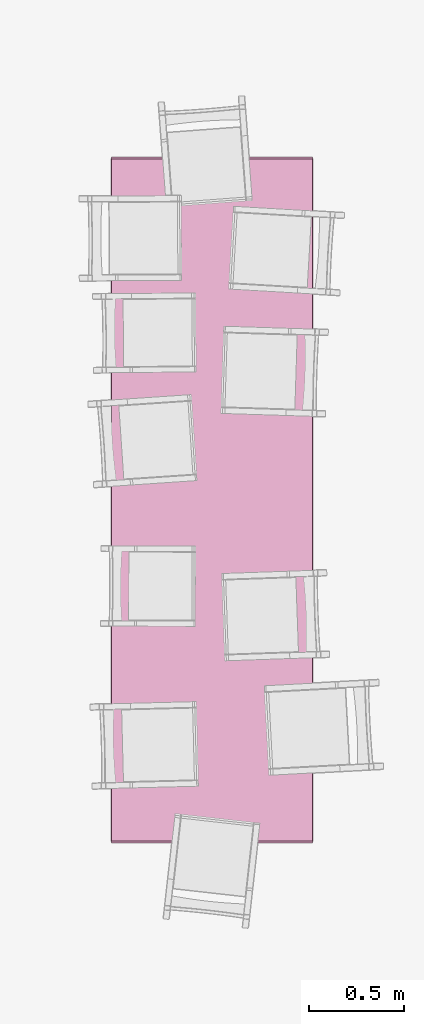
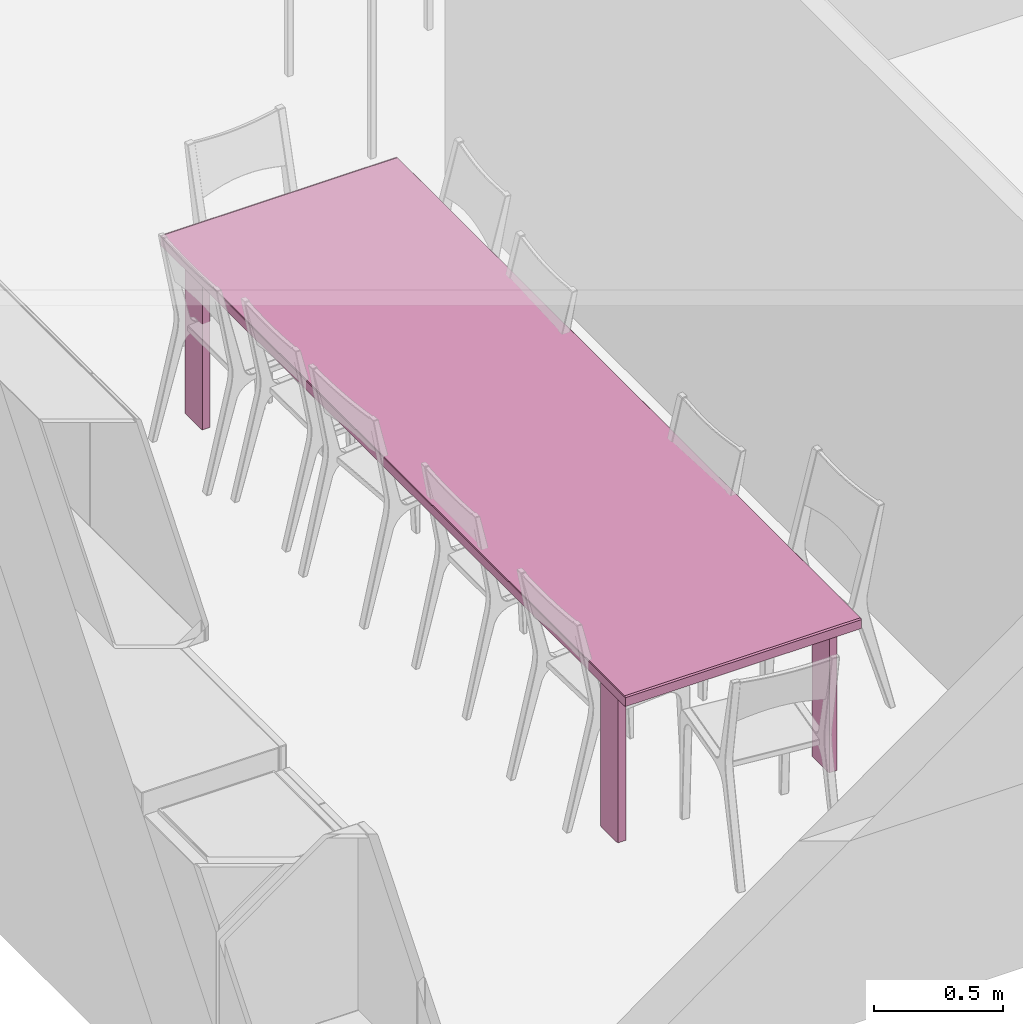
# One storey, part 18 of 26: 1 furniture element.
"""IFC4 building model written with IfcOpenShell, lengths in metres."""

from ifc_helpers import new_model, si_unit, direction, frame, origin_with_axes, place, context, project, spatial, polygons, type_object, element, save


model = new_model("IFC4")

# Units and contexts
model_context = context("Model", 3, precision=1e-05, world=origin_with_axes(), true_north=direction((0.996, -0.093, 0.0)))
ifc_project = project(units=[si_unit("LENGTHUNIT", "METRE"), si_unit("AREAUNIT", "SQUARE_METRE")], contexts=[model_context])

# Site, building, storey, space
site_placement = place(None, origin_with_axes())
site = spatial("IfcSite", under=ifc_project, at=site_placement, Name="Site", CompositionType="ELEMENT")
building_placement = place(site_placement, origin_with_axes())
building = spatial("IfcBuilding", under=site, at=building_placement, Name="Building", CompositionType="ELEMENT")
storey_placement = place(building_placement, frame((0.0, 0.0, 0.0500001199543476), z_axis=(0.0, 0.0, 1.0), x_axis=(1.0, 0.0, 0.0)))
storey = spatial("IfcBuildingStorey", under=building, at=storey_placement, Name="Story 0", CompositionType="ELEMENT", Elevation=0.0500000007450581)
space_placement = place(storey_placement, frame((9.93548383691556, 0.861985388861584, 0.0), z_axis=(0.0, 0.0, 1.0), x_axis=(1.0, 0.0, 0.0)))
space = spatial("IfcSpace", under=storey, at=space_placement, Name="004", CompositionType="ELEMENT")

# Furniture
furniture_type = type_object("IfcFurnitureType", Name="20944aee-117d-4066-b57e-82a6d35c948c", AssemblyPlace="NOTDEFINED", PredefinedType="USERDEFINED")
furniture_placement = place(space_placement, frame((13.2296277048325, -2.43559915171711, 0.391521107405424), z_axis=(0.0, 0.0, 0.999999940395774), x_axis=(-0.999999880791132, 0.0, 0.0)))
element("IfcFurniture", 1, at=furniture_placement, inside=space, type_object=furniture_type, Name="Table", ObjectType="Table", PredefinedType="USERDEFINED", context=model_context, shape_type="Tessellation", body=[
    polygons([(0.5284, 1.8052, 0.3461), (-0.5284, 1.8052, 0.3461), (0.5284, 1.8052, 0.3881), (-0.5284, 1.8052, 0.3881), (0.5284, 1.8052, 0.3881), (-0.5284, 1.8052, 0.3461), (0.4529, -1.6715, 0.3549), (0.4529, -1.5531, 0.3549), (0.4529, -1.6715, -0.3881), (0.4529, -1.5531, -0.3881), (0.4529, -1.6715, -0.3881), (0.4529, -1.5531, 0.3549), (0.4904, -1.6805, 0.3549), (0.4556, -1.6805, 0.3549), (0.4904, -1.6805, -0.3881), (0.4556, -1.6805, -0.3881), (0.4904, -1.6805, -0.3881), (0.4556, -1.6805, 0.3549), (0.4931, -1.5531, 0.3549), (0.4931, -1.6715, 0.3549), (0.4931, -1.5531, -0.3881), (0.4931, -1.6715, -0.3881), (0.4931, -1.5531, -0.3881), (0.4931, -1.6715, 0.3549), (0.4556, -1.5441, 0.3549), (0.4904, -1.5441, 0.3549), (0.4556, -1.5441, -0.3881), (0.4904, -1.5441, -0.3881), (0.4556, -1.5441, -0.3881), (0.4904, -1.5441, 0.3549), (0.4529, 1.6715, 0.3549), (0.4529, 1.6715, -0.3881), (0.4529, 1.5531, 0.3549), (0.4529, 1.5531, -0.3881), (0.4529, 1.5531, 0.3549), (0.4529, 1.6715, -0.3881), (0.4904, 1.6805, 0.3549), (0.4904, 1.6805, -0.3881), (0.4556, 1.6805, 0.3549), (0.4556, 1.6805, -0.3881), (0.4556, 1.6805, 0.3549), (0.4904, 1.6805, -0.3881), (0.4931, 1.5531, 0.3549), (0.4931, 1.5531, -0.3881), (0.4931, 1.6715, 0.3549), (0.4931, 1.6715, -0.3881), (0.4931, 1.6715, 0.3549), (0.4931, 1.5531, -0.3881), (0.4556, 1.544, 0.3549), (0.4556, 1.544, -0.3881), (0.4904, 1.544, 0.3549), (0.4904, 1.544, -0.3881), (0.4904, 1.544, 0.3549), (0.4556, 1.544, -0.3881), (0.531, 1.7962, 0.3461), (0.531, 1.7962, 0.3881), (0.531, -1.7962, 0.3461), (0.531, -1.7962, 0.3881), (0.531, -1.7962, 0.3461), (0.531, 1.7962, 0.3881), (-0.531, 1.7962, 0.3881), (-0.531, 1.7962, 0.3461), (-0.531, -1.7962, 0.3881), (-0.531, -1.7962, 0.3461), (-0.531, -1.7962, 0.3881), (-0.531, 1.7962, 0.3461), (-0.4529, -1.6715, 0.3549), (-0.4529, -1.6715, -0.3881), (-0.4529, -1.5531, 0.3549), (-0.4529, -1.5531, -0.3881), (-0.4529, -1.5531, 0.3549), (-0.4529, -1.6715, -0.3881), (-0.4904, -1.6805, 0.3549), (-0.4904, -1.6805, -0.3881), (-0.4556, -1.6805, 0.3549), (-0.4556, -1.6805, -0.3881), (-0.4556, -1.6805, 0.3549), (-0.4904, -1.6805, -0.3881), (-0.4931, -1.5531, 0.3549), (-0.4931, -1.5531, -0.3881), (-0.4931, -1.6715, 0.3549), (-0.4931, -1.6715, -0.3881), (-0.4931, -1.6715, 0.3549), (-0.4931, -1.5531, -0.3881), (-0.4556, -1.5441, 0.3549), (-0.4556, -1.5441, -0.3881), (-0.4904, -1.5441, 0.3549), (-0.4904, -1.5441, -0.3881), (-0.4904, -1.5441, 0.3549), (-0.4556, -1.5441, -0.3881), (-0.4529, 1.6715, 0.3549), (-0.4529, 1.5531, 0.3549), (-0.4529, 1.6715, -0.3881), (-0.4529, 1.5531, -0.3881), (-0.4529, 1.6715, -0.3881), (-0.4529, 1.5531, 0.3549), (-0.4904, 1.6805, 0.3549), (-0.4556, 1.6805, 0.3549), (-0.4904, 1.6805, -0.3881), (-0.4556, 1.6805, -0.3881), (-0.4904, 1.6805, -0.3881), (-0.4556, 1.6805, 0.3549), (-0.4931, 1.5531, 0.3549), (-0.4931, 1.6715, 0.3549), (-0.4931, 1.5531, -0.3881), (-0.4931, 1.6715, -0.3881), (-0.4931, 1.5531, -0.3881), (-0.4931, 1.6715, 0.3549), (-0.4556, 1.544, 0.3549), (-0.4904, 1.544, 0.3549), (-0.4556, 1.544, -0.3881), (-0.4904, 1.544, -0.3881), (-0.4556, 1.544, -0.3881), (-0.4904, 1.544, 0.3549), (-0.5284, 1.7962, 0.3915), (-0.5284, -1.7962, 0.3915), (0.5284, 1.7962, 0.3915), (0.5284, -1.7962, 0.3915), (0.5284, 1.7962, 0.3915), (-0.5284, -1.7962, 0.3915), (0.5284, -1.8052, 0.3461), (0.5284, -1.8052, 0.3881), (-0.5284, -1.8052, 0.3461), (-0.5284, -1.8052, 0.3881), (-0.5284, -1.8052, 0.3461), (0.5284, -1.8052, 0.3881), (0.5284, -1.7962, 0.3427), (-0.5284, -1.7962, 0.3427), (0.5284, 1.7962, 0.3427), (-0.5284, 1.7962, 0.3427), (0.5284, 1.7962, 0.3427), (-0.5284, -1.7962, 0.3427), (0.4904, -1.6715, 0.3584), (0.4904, -1.5531, 0.3584), (0.4556, -1.6715, 0.3584), (0.4556, -1.5531, 0.3584), (0.4556, -1.6715, 0.3584), (0.4904, -1.5531, 0.3584), (0.4904, -1.5531, -0.3915), (0.4904, -1.6715, -0.3915), (0.4556, -1.5531, -0.3915), (0.4556, -1.6715, -0.3915), (0.4556, -1.5531, -0.3915), (0.4904, -1.6715, -0.3915), (0.4904, 1.6715, -0.3915), (0.4904, 1.5531, -0.3915), (0.4556, 1.6715, -0.3915), (0.4556, 1.5531, -0.3915), (0.4556, 1.6715, -0.3915), (0.4904, 1.5531, -0.3915), (0.4904, 1.5531, 0.3584), (0.4904, 1.6715, 0.3584), (0.4556, 1.5531, 0.3584), (0.4556, 1.6715, 0.3584), (0.4556, 1.5531, 0.3584), (0.4904, 1.6715, 0.3584), (-0.4904, -1.6715, -0.3915), (-0.4904, -1.5531, -0.3915), (-0.4556, -1.6715, -0.3915), (-0.4556, -1.5531, -0.3915), (-0.4556, -1.6715, -0.3915), (-0.4904, -1.5531, -0.3915), (-0.4904, -1.5531, 0.3584), (-0.4904, -1.6715, 0.3584), (-0.4556, -1.5531, 0.3584), (-0.4556, -1.6715, 0.3584), (-0.4556, -1.5531, 0.3584), (-0.4904, -1.6715, 0.3584), (-0.4904, 1.6715, 0.3584), (-0.4904, 1.5531, 0.3584), (-0.4556, 1.6715, 0.3584), (-0.4556, 1.5531, 0.3584), (-0.4556, 1.6715, 0.3584), (-0.4904, 1.5531, 0.3584), (-0.4904, 1.5531, -0.3915), (-0.4904, 1.6715, -0.3915), (-0.4556, 1.5531, -0.3915), (-0.4556, 1.6715, -0.3915), (-0.4556, 1.5531, -0.3915), (-0.4904, 1.6715, -0.3915), (-0.5284, 1.7962, 0.3915), (-0.5284, 1.8052, 0.3881), (-0.531, 1.7962, 0.3881), (0.4556, -1.5531, -0.3915), (0.4529, -1.5531, -0.3881), (0.4556, -1.5441, -0.3881), (0.4556, -1.6715, -0.3915), (0.4556, -1.6805, -0.3881), (0.4529, -1.6715, -0.3881), (0.4904, -1.6715, -0.3915), (0.4931, -1.6715, -0.3881), (0.4904, -1.6805, -0.3881), (0.4904, -1.5531, -0.3915), (0.4904, -1.5441, -0.3881), (0.4931, -1.5531, -0.3881), (0.4556, -1.5531, 0.3584), (0.4556, -1.5441, 0.3549), (0.4529, -1.5531, 0.3549), (0.4556, 1.544, -0.3881), (0.4529, 1.5531, -0.3881), (0.4556, 1.5531, -0.3915), (0.4556, 1.6715, 0.3584), (0.4556, 1.6805, 0.3549), (0.4529, 1.6715, 0.3549), (0.4904, 1.6715, 0.3584), (0.4931, 1.6715, 0.3549), (0.4904, 1.6805, 0.3549), (0.4904, 1.5531, 0.3584), (0.4904, 1.544, 0.3549), (0.4931, 1.5531, 0.3549), (0.5284, -1.8052, 0.3881), (0.531, -1.7962, 0.3881), (0.5284, -1.7962, 0.3915), (0.5284, 1.7962, 0.3915), (0.531, 1.7962, 0.3881), (0.5284, 1.8052, 0.3881), (-0.5284, -1.8052, 0.3461), (-0.531, -1.7962, 0.3461), (-0.5284, -1.7962, 0.3427), (-0.5284, 1.7962, 0.3427), (-0.531, 1.7962, 0.3461), (-0.5284, 1.8052, 0.3461), (-0.4556, -1.5441, -0.3881), (-0.4529, -1.5531, -0.3881), (-0.4556, -1.5531, -0.3915), (-0.4556, -1.6715, 0.3584), (-0.4556, -1.6805, 0.3549), (-0.4529, -1.6715, 0.3549), (-0.4904, -1.6715, 0.3584), (-0.4931, -1.6715, 0.3549), (-0.4904, -1.6805, 0.3549), (-0.4904, -1.5531, 0.3584), (-0.4904, -1.5441, 0.3549), (-0.4931, -1.5531, 0.3549), (-0.4556, 1.5531, -0.3915), (-0.4529, 1.5531, -0.3881), (-0.4556, 1.544, -0.3881), (-0.4556, 1.6715, -0.3915), (-0.4556, 1.6805, -0.3881), (-0.4529, 1.6715, -0.3881), (-0.4904, 1.6715, -0.3915), (-0.4931, 1.6715, -0.3881), (-0.4904, 1.6805, -0.3881), (-0.4904, 1.5531, -0.3915), (-0.4904, 1.544, -0.3881), (-0.4931, 1.5531, -0.3881), (-0.4556, 1.5531, 0.3584), (-0.4556, 1.544, 0.3549), (-0.4529, 1.5531, 0.3549), (-0.5284, -1.8052, 0.3881), (-0.5284, -1.7962, 0.3915), (-0.531, -1.7962, 0.3881), (0.5284, -1.8052, 0.3461), (0.5284, -1.7962, 0.3427), (0.531, -1.7962, 0.3461), (0.531, 1.7962, 0.3461), (0.5284, 1.7962, 0.3427), (0.5284, 1.8052, 0.3461), (0.4904, -1.5441, 0.3549), (0.4904, -1.5531, 0.3584), (0.4931, -1.5531, 0.3549), (0.4931, -1.6715, 0.3549), (0.4904, -1.6715, 0.3584), (0.4904, -1.6805, 0.3549), (0.4556, -1.6805, 0.3549), (0.4556, -1.6715, 0.3584), (0.4529, -1.6715, 0.3549), (0.4904, 1.544, -0.3881), (0.4904, 1.5531, -0.3915), (0.4931, 1.5531, -0.3881), (0.4931, 1.6715, -0.3881), (0.4904, 1.6715, -0.3915), (0.4904, 1.6805, -0.3881), (0.4556, 1.6805, -0.3881), (0.4556, 1.6715, -0.3915), (0.4529, 1.6715, -0.3881), (0.4556, 1.544, 0.3549), (0.4556, 1.5531, 0.3584), (0.4529, 1.5531, 0.3549), (-0.4904, -1.5441, -0.3881), (-0.4904, -1.5531, -0.3915), (-0.4931, -1.5531, -0.3881), (-0.4931, -1.6715, -0.3881), (-0.4904, -1.6715, -0.3915), (-0.4904, -1.6805, -0.3881), (-0.4556, -1.6805, -0.3881), (-0.4556, -1.6715, -0.3915), (-0.4529, -1.6715, -0.3881), (-0.4556, -1.5441, 0.3549), (-0.4556, -1.5531, 0.3584), (-0.4529, -1.5531, 0.3549), (-0.4904, 1.544, 0.3549), (-0.4904, 1.5531, 0.3584), (-0.4931, 1.5531, 0.3549), (-0.4931, 1.6715, 0.3549), (-0.4904, 1.6715, 0.3584), (-0.4904, 1.6805, 0.3549), (-0.4556, 1.6805, 0.3549), (-0.4556, 1.6715, 0.3584), (-0.4529, 1.6715, 0.3549), (-0.5284, 1.8052, 0.3881), (-0.5284, 1.8052, 0.3461), (-0.531, 1.7962, 0.3881), (-0.531, 1.7962, 0.3461), (-0.531, 1.7962, 0.3881), (-0.5284, 1.8052, 0.3461), (-0.5284, 1.8052, 0.3461), (0.5284, 1.8052, 0.3461), (-0.5284, 1.7962, 0.3427), (0.5284, 1.7962, 0.3427), (-0.5284, 1.7962, 0.3427), (0.5284, 1.8052, 0.3461), (0.5284, 1.8052, 0.3461), (0.5284, 1.8052, 0.3881), (0.531, 1.7962, 0.3461), (0.531, 1.7962, 0.3881), (0.531, 1.7962, 0.3461), (0.5284, 1.8052, 0.3881), (0.5284, 1.8052, 0.3881), (-0.5284, 1.8052, 0.3881), (0.5284, 1.7962, 0.3915), (-0.5284, 1.7962, 0.3915), (0.5284, 1.7962, 0.3915), (-0.5284, 1.8052, 0.3881), (0.4529, -1.5531, -0.3881), (0.4529, -1.5531, 0.3549), (0.4556, -1.5441, -0.3881), (0.4556, -1.5441, 0.3549), (0.4556, -1.5441, -0.3881), (0.4529, -1.5531, 0.3549), (0.4529, -1.5531, 0.3549), (0.4529, -1.6715, 0.3549), (0.4556, -1.5531, 0.3584), (0.4556, -1.6715, 0.3584), (0.4556, -1.5531, 0.3584), (0.4529, -1.6715, 0.3549), (0.4529, -1.6715, 0.3549), (0.4529, -1.6715, -0.3881), (0.4556, -1.6805, 0.3549), (0.4556, -1.6805, -0.3881), (0.4556, -1.6805, 0.3549), (0.4529, -1.6715, -0.3881), (0.4529, -1.6715, -0.3881), (0.4529, -1.5531, -0.3881), (0.4556, -1.6715, -0.3915), (0.4556, -1.5531, -0.3915), (0.4556, -1.6715, -0.3915), (0.4529, -1.5531, -0.3881), (0.4556, -1.6805, 0.3549), (0.4904, -1.6805, 0.3549), (0.4556, -1.6715, 0.3584), (0.4904, -1.6715, 0.3584), (0.4556, -1.6715, 0.3584), (0.4904, -1.6805, 0.3549), (0.4904, -1.6805, 0.3549), (0.4904, -1.6805, -0.3881), (0.4931, -1.6715, 0.3549), (0.4931, -1.6715, -0.3881), (0.4931, -1.6715, 0.3549), (0.4904, -1.6805, -0.3881), (0.4904, -1.6805, -0.3881), (0.4556, -1.6805, -0.3881), (0.4904, -1.6715, -0.3915), (0.4556, -1.6715, -0.3915), (0.4904, -1.6715, -0.3915), (0.4556, -1.6805, -0.3881), (0.4931, -1.6715, 0.3549), (0.4931, -1.5531, 0.3549), (0.4904, -1.6715, 0.3584), (0.4904, -1.5531, 0.3584), (0.4904, -1.6715, 0.3584), (0.4931, -1.5531, 0.3549), (0.4931, -1.5531, 0.3549), (0.4931, -1.5531, -0.3881), (0.4904, -1.5441, 0.3549), (0.4904, -1.5441, -0.3881), (0.4904, -1.5441, 0.3549), (0.4931, -1.5531, -0.3881), (0.4931, -1.5531, -0.3881), (0.4931, -1.6715, -0.3881), (0.4904, -1.5531, -0.3915), (0.4904, -1.6715, -0.3915), (0.4904, -1.5531, -0.3915), (0.4931, -1.6715, -0.3881), (0.4904, -1.5441, 0.3549), (0.4556, -1.5441, 0.3549), (0.4904, -1.5531, 0.3584), (0.4556, -1.5531, 0.3584), (0.4904, -1.5531, 0.3584), (0.4556, -1.5441, 0.3549), (0.4556, -1.5441, -0.3881), (0.4904, -1.5441, -0.3881), (0.4556, -1.5531, -0.3915), (0.4904, -1.5531, -0.3915), (0.4556, -1.5531, -0.3915), (0.4904, -1.5441, -0.3881), (0.4529, 1.5531, -0.3881), (0.4529, 1.6715, -0.3881), (0.4556, 1.5531, -0.3915), (0.4556, 1.6715, -0.3915), (0.4556, 1.5531, -0.3915), (0.4529, 1.6715, -0.3881), (0.4529, 1.6715, -0.3881), (0.4529, 1.6715, 0.3549), (0.4556, 1.6805, -0.3881), (0.4556, 1.6805, 0.3549), (0.4556, 1.6805, -0.3881), (0.4529, 1.6715, 0.3549), (0.4529, 1.6715, 0.3549), (0.4529, 1.5531, 0.3549), (0.4556, 1.6715, 0.3584), (0.4556, 1.5531, 0.3584), (0.4556, 1.6715, 0.3584), (0.4529, 1.5531, 0.3549), (0.4529, 1.5531, 0.3549), (0.4529, 1.5531, -0.3881), (0.4556, 1.544, 0.3549), (0.4556, 1.544, -0.3881), (0.4556, 1.544, 0.3549), (0.4529, 1.5531, -0.3881), (0.4556, 1.6805, -0.3881), (0.4904, 1.6805, -0.3881), (0.4556, 1.6715, -0.3915), (0.4904, 1.6715, -0.3915), (0.4556, 1.6715, -0.3915), (0.4904, 1.6805, -0.3881), (0.4904, 1.6805, -0.3881), (0.4904, 1.6805, 0.3549), (0.4931, 1.6715, -0.3881), (0.4931, 1.6715, 0.3549), (0.4931, 1.6715, -0.3881), (0.4904, 1.6805, 0.3549), (0.4904, 1.6805, 0.3549), (0.4556, 1.6805, 0.3549), (0.4904, 1.6715, 0.3584), (0.4556, 1.6715, 0.3584), (0.4904, 1.6715, 0.3584), (0.4556, 1.6805, 0.3549), (0.4931, 1.6715, -0.3881), (0.4931, 1.5531, -0.3881), (0.4904, 1.6715, -0.3915), (0.4904, 1.5531, -0.3915), (0.4904, 1.6715, -0.3915), (0.4931, 1.5531, -0.3881), (0.4931, 1.5531, -0.3881), (0.4931, 1.5531, 0.3549), (0.4904, 1.544, -0.3881), (0.4904, 1.544, 0.3549), (0.4904, 1.544, -0.3881), (0.4931, 1.5531, 0.3549), (0.4931, 1.5531, 0.3549), (0.4931, 1.6715, 0.3549), (0.4904, 1.5531, 0.3584), (0.4904, 1.6715, 0.3584), (0.4904, 1.5531, 0.3584), (0.4931, 1.6715, 0.3549), (0.4904, 1.544, -0.3881), (0.4556, 1.544, -0.3881), (0.4904, 1.5531, -0.3915), (0.4556, 1.5531, -0.3915), (0.4904, 1.5531, -0.3915), (0.4556, 1.544, -0.3881), (0.4556, 1.544, 0.3549), (0.4904, 1.544, 0.3549), (0.4556, 1.5531, 0.3584), (0.4904, 1.5531, 0.3584), (0.4556, 1.5531, 0.3584), (0.4904, 1.544, 0.3549), (0.531, -1.7962, 0.3881), (0.531, 1.7962, 0.3881), (0.5284, -1.7962, 0.3915), (0.5284, 1.7962, 0.3915), (0.5284, -1.7962, 0.3915), (0.531, 1.7962, 0.3881), (0.531, 1.7962, 0.3461), (0.531, -1.7962, 0.3461), (0.5284, 1.7962, 0.3427), (0.5284, -1.7962, 0.3427), (0.5284, 1.7962, 0.3427), (0.531, -1.7962, 0.3461), (0.531, -1.7962, 0.3461), (0.531, -1.7962, 0.3881), (0.5284, -1.8052, 0.3461), (0.5284, -1.8052, 0.3881), (0.5284, -1.8052, 0.3461), (0.531, -1.7962, 0.3881), (-0.531, -1.7962, 0.3461), (-0.531, 1.7962, 0.3461), (-0.5284, -1.7962, 0.3427), (-0.5284, 1.7962, 0.3427), (-0.5284, -1.7962, 0.3427), (-0.531, 1.7962, 0.3461), (-0.531, 1.7962, 0.3881), (-0.531, -1.7962, 0.3881), (-0.5284, 1.7962, 0.3915), (-0.5284, -1.7962, 0.3915), (-0.5284, 1.7962, 0.3915), (-0.531, -1.7962, 0.3881), (-0.531, -1.7962, 0.3881), (-0.531, -1.7962, 0.3461), (-0.5284, -1.8052, 0.3881), (-0.5284, -1.8052, 0.3461), (-0.5284, -1.8052, 0.3881), (-0.531, -1.7962, 0.3461), (-0.4529, -1.5531, -0.3881), (-0.4529, -1.6715, -0.3881), (-0.4556, -1.5531, -0.3915), (-0.4556, -1.6715, -0.3915), (-0.4556, -1.5531, -0.3915), (-0.4529, -1.6715, -0.3881), (-0.4529, -1.6715, -0.3881), (-0.4529, -1.6715, 0.3549), (-0.4556, -1.6805, -0.3881), (-0.4556, -1.6805, 0.3549), (-0.4556, -1.6805, -0.3881), (-0.4529, -1.6715, 0.3549), (-0.4529, -1.6715, 0.3549), (-0.4529, -1.5531, 0.3549), (-0.4556, -1.6715, 0.3584), (-0.4556, -1.5531, 0.3584), (-0.4556, -1.6715, 0.3584), (-0.4529, -1.5531, 0.3549), (-0.4529, -1.5531, 0.3549), (-0.4529, -1.5531, -0.3881), (-0.4556, -1.5441, 0.3549), (-0.4556, -1.5441, -0.3881), (-0.4556, -1.5441, 0.3549), (-0.4529, -1.5531, -0.3881), (-0.4556, -1.6805, -0.3881), (-0.4904, -1.6805, -0.3881), (-0.4556, -1.6715, -0.3915), (-0.4904, -1.6715, -0.3915), (-0.4556, -1.6715, -0.3915), (-0.4904, -1.6805, -0.3881), (-0.4904, -1.6805, -0.3881), (-0.4904, -1.6805, 0.3549), (-0.4931, -1.6715, -0.3881), (-0.4931, -1.6715, 0.3549), (-0.4931, -1.6715, -0.3881), (-0.4904, -1.6805, 0.3549), (-0.4904, -1.6805, 0.3549), (-0.4556, -1.6805, 0.3549), (-0.4904, -1.6715, 0.3584), (-0.4556, -1.6715, 0.3584), (-0.4904, -1.6715, 0.3584), (-0.4556, -1.6805, 0.3549), (-0.4931, -1.6715, -0.3881), (-0.4931, -1.5531, -0.3881), (-0.4904, -1.6715, -0.3915), (-0.4904, -1.5531, -0.3915), (-0.4904, -1.6715, -0.3915), (-0.4931, -1.5531, -0.3881), (-0.4931, -1.5531, -0.3881), (-0.4931, -1.5531, 0.3549), (-0.4904, -1.5441, -0.3881), (-0.4904, -1.5441, 0.3549), (-0.4904, -1.5441, -0.3881), (-0.4931, -1.5531, 0.3549), (-0.4931, -1.5531, 0.3549), (-0.4931, -1.6715, 0.3549), (-0.4904, -1.5531, 0.3584), (-0.4904, -1.6715, 0.3584), (-0.4904, -1.5531, 0.3584), (-0.4931, -1.6715, 0.3549), (-0.4904, -1.5441, -0.3881), (-0.4556, -1.5441, -0.3881), (-0.4904, -1.5531, -0.3915), (-0.4556, -1.5531, -0.3915), (-0.4904, -1.5531, -0.3915), (-0.4556, -1.5441, -0.3881), (-0.4556, -1.5441, 0.3549), (-0.4904, -1.5441, 0.3549), (-0.4556, -1.5531, 0.3584), (-0.4904, -1.5531, 0.3584), (-0.4556, -1.5531, 0.3584), (-0.4904, -1.5441, 0.3549), (-0.4529, 1.5531, -0.3881), (-0.4529, 1.5531, 0.3549), (-0.4556, 1.544, -0.3881), (-0.4556, 1.544, 0.3549), (-0.4556, 1.544, -0.3881), (-0.4529, 1.5531, 0.3549), (-0.4529, 1.5531, 0.3549), (-0.4529, 1.6715, 0.3549), (-0.4556, 1.5531, 0.3584), (-0.4556, 1.6715, 0.3584), (-0.4556, 1.5531, 0.3584), (-0.4529, 1.6715, 0.3549), (-0.4529, 1.6715, 0.3549), (-0.4529, 1.6715, -0.3881), (-0.4556, 1.6805, 0.3549), (-0.4556, 1.6805, -0.3881), (-0.4556, 1.6805, 0.3549), (-0.4529, 1.6715, -0.3881), (-0.4529, 1.6715, -0.3881), (-0.4529, 1.5531, -0.3881), (-0.4556, 1.6715, -0.3915), (-0.4556, 1.5531, -0.3915), (-0.4556, 1.6715, -0.3915), (-0.4529, 1.5531, -0.3881), (-0.4556, 1.6805, 0.3549), (-0.4904, 1.6805, 0.3549), (-0.4556, 1.6715, 0.3584), (-0.4904, 1.6715, 0.3584), (-0.4556, 1.6715, 0.3584), (-0.4904, 1.6805, 0.3549), (-0.4904, 1.6805, 0.3549), (-0.4904, 1.6805, -0.3881), (-0.4931, 1.6715, 0.3549), (-0.4931, 1.6715, -0.3881), (-0.4931, 1.6715, 0.3549), (-0.4904, 1.6805, -0.3881), (-0.4904, 1.6805, -0.3881), (-0.4556, 1.6805, -0.3881), (-0.4904, 1.6715, -0.3915), (-0.4556, 1.6715, -0.3915), (-0.4904, 1.6715, -0.3915), (-0.4556, 1.6805, -0.3881), (-0.4931, 1.6715, 0.3549), (-0.4931, 1.5531, 0.3549), (-0.4904, 1.6715, 0.3584), (-0.4904, 1.5531, 0.3584), (-0.4904, 1.6715, 0.3584), (-0.4931, 1.5531, 0.3549), (-0.4931, 1.5531, 0.3549), (-0.4931, 1.5531, -0.3881), (-0.4904, 1.544, 0.3549), (-0.4904, 1.544, -0.3881), (-0.4904, 1.544, 0.3549), (-0.4931, 1.5531, -0.3881), (-0.4931, 1.5531, -0.3881), (-0.4931, 1.6715, -0.3881), (-0.4904, 1.5531, -0.3915), (-0.4904, 1.6715, -0.3915), (-0.4904, 1.5531, -0.3915), (-0.4931, 1.6715, -0.3881), (-0.4904, 1.544, 0.3549), (-0.4556, 1.544, 0.3549), (-0.4904, 1.5531, 0.3584), (-0.4556, 1.5531, 0.3584), (-0.4904, 1.5531, 0.3584), (-0.4556, 1.544, 0.3549), (-0.4556, 1.544, -0.3881), (-0.4904, 1.544, -0.3881), (-0.4556, 1.5531, -0.3915), (-0.4904, 1.5531, -0.3915), (-0.4556, 1.5531, -0.3915), (-0.4904, 1.544, -0.3881), (0.5284, -1.7962, 0.3915), (-0.5284, -1.7962, 0.3915), (0.5284, -1.8052, 0.3881), (-0.5284, -1.8052, 0.3881), (0.5284, -1.8052, 0.3881), (-0.5284, -1.7962, 0.3915), (0.5284, -1.8052, 0.3461), (-0.5284, -1.8052, 0.3461), (0.5284, -1.7962, 0.3427), (-0.5284, -1.7962, 0.3427), (0.5284, -1.7962, 0.3427), (-0.5284, -1.8052, 0.3461)], [[[1, 2, 3]], [[4, 5, 6]], [[7, 8, 9]], [[10, 11, 12]], [[13, 14, 15]], [[16, 17, 18]], [[19, 20, 21]], [[22, 23, 24]], [[25, 26, 27]], [[28, 29, 30]], [[31, 32, 33]], [[34, 35, 36]], [[37, 38, 39]], [[40, 41, 42]], [[43, 44, 45]], [[46, 47, 48]], [[49, 50, 51]], [[52, 53, 54]], [[55, 56, 57]], [[58, 59, 60]], [[61, 62, 63]], [[64, 65, 66]], [[67, 68, 69]], [[70, 71, 72]], [[73, 74, 75]], [[76, 77, 78]], [[79, 80, 81]], [[82, 83, 84]], [[85, 86, 87]], [[88, 89, 90]], [[91, 92, 93]], [[94, 95, 96]], [[97, 98, 99]], [[100, 101, 102]], [[103, 104, 105]], [[106, 107, 108]], [[109, 110, 111]], [[112, 113, 114]], [[115, 116, 117]], [[118, 119, 120]], [[121, 122, 123]], [[124, 125, 126]], [[127, 128, 129]], [[130, 131, 132]], [[133, 134, 135]], [[136, 137, 138]], [[139, 140, 141]], [[142, 143, 144]], [[145, 146, 147]], [[148, 149, 150]], [[151, 152, 153]], [[154, 155, 156]], [[157, 158, 159]], [[160, 161, 162]], [[163, 164, 165]], [[166, 167, 168]], [[169, 170, 171]], [[172, 173, 174]], [[175, 176, 177]], [[178, 179, 180]], [[181, 182, 183]], [[184, 185, 186]], [[187, 188, 189]], [[190, 191, 192]], [[193, 194, 195]], [[196, 197, 198]], [[199, 200, 201]], [[202, 203, 204]], [[205, 206, 207]], [[208, 209, 210]], [[211, 212, 213]], [[214, 215, 216]], [[217, 218, 219]], [[220, 221, 222]], [[223, 224, 225]], [[226, 227, 228]], [[229, 230, 231]], [[232, 233, 234]], [[235, 236, 237]], [[238, 239, 240]], [[241, 242, 243]], [[244, 245, 246]], [[247, 248, 249]], [[250, 251, 252]], [[253, 254, 255]], [[256, 257, 258]], [[259, 260, 261]], [[262, 263, 264]], [[265, 266, 267]], [[268, 269, 270]], [[271, 272, 273]], [[274, 275, 276]], [[277, 278, 279]], [[280, 281, 282]], [[283, 284, 285]], [[286, 287, 288]], [[289, 290, 291]], [[292, 293, 294]], [[295, 296, 297]], [[298, 299, 300]], [[301, 302, 303]], [[304, 305, 306]], [[307, 308, 309]], [[310, 311, 312]], [[313, 314, 315]], [[316, 317, 318]], [[319, 320, 321]], [[322, 323, 324]], [[325, 326, 327]], [[328, 329, 330]], [[331, 332, 333]], [[334, 335, 336]], [[337, 338, 339]], [[340, 341, 342]], [[343, 344, 345]], [[346, 347, 348]], [[349, 350, 351]], [[352, 353, 354]], [[355, 356, 357]], [[358, 359, 360]], [[361, 362, 363]], [[364, 365, 366]], [[367, 368, 369]], [[370, 371, 372]], [[373, 374, 375]], [[376, 377, 378]], [[379, 380, 381]], [[382, 383, 384]], [[385, 386, 387]], [[388, 389, 390]], [[391, 392, 393]], [[394, 395, 396]], [[397, 398, 399]], [[400, 401, 402]], [[403, 404, 405]], [[406, 407, 408]], [[409, 410, 411]], [[412, 413, 414]], [[415, 416, 417]], [[418, 419, 420]], [[421, 422, 423]], [[424, 425, 426]], [[427, 428, 429]], [[430, 431, 432]], [[433, 434, 435]], [[436, 437, 438]], [[439, 440, 441]], [[442, 443, 444]], [[445, 446, 447]], [[448, 449, 450]], [[451, 452, 453]], [[454, 455, 456]], [[457, 458, 459]], [[460, 461, 462]], [[463, 464, 465]], [[466, 467, 468]], [[469, 470, 471]], [[472, 473, 474]], [[475, 476, 477]], [[478, 479, 480]], [[481, 482, 483]], [[484, 485, 486]], [[487, 488, 489]], [[490, 491, 492]], [[493, 494, 495]], [[496, 497, 498]], [[499, 500, 501]], [[502, 503, 504]], [[505, 506, 507]], [[508, 509, 510]], [[511, 512, 513]], [[514, 515, 516]], [[517, 518, 519]], [[520, 521, 522]], [[523, 524, 525]], [[526, 527, 528]], [[529, 530, 531]], [[532, 533, 534]], [[535, 536, 537]], [[538, 539, 540]], [[541, 542, 543]], [[544, 545, 546]], [[547, 548, 549]], [[550, 551, 552]], [[553, 554, 555]], [[556, 557, 558]], [[559, 560, 561]], [[562, 563, 564]], [[565, 566, 567]], [[568, 569, 570]], [[571, 572, 573]], [[574, 575, 576]], [[577, 578, 579]], [[580, 581, 582]], [[583, 584, 585]], [[586, 587, 588]], [[589, 590, 591]], [[592, 593, 594]], [[595, 596, 597]], [[598, 599, 600]], [[601, 602, 603]], [[604, 605, 606]], [[607, 608, 609]], [[610, 611, 612]], [[613, 614, 615]], [[616, 617, 618]], [[619, 620, 621]], [[622, 623, 624]], [[625, 626, 627]], [[628, 629, 630]], [[631, 632, 633]], [[634, 635, 636]], [[637, 638, 639]], [[640, 641, 642]], [[643, 644, 645]], [[646, 647, 648]], [[649, 650, 651]], [[652, 653, 654]], [[655, 656, 657]], [[658, 659, 660]]]),
])

save(model, "model.ifc")
